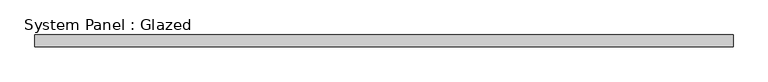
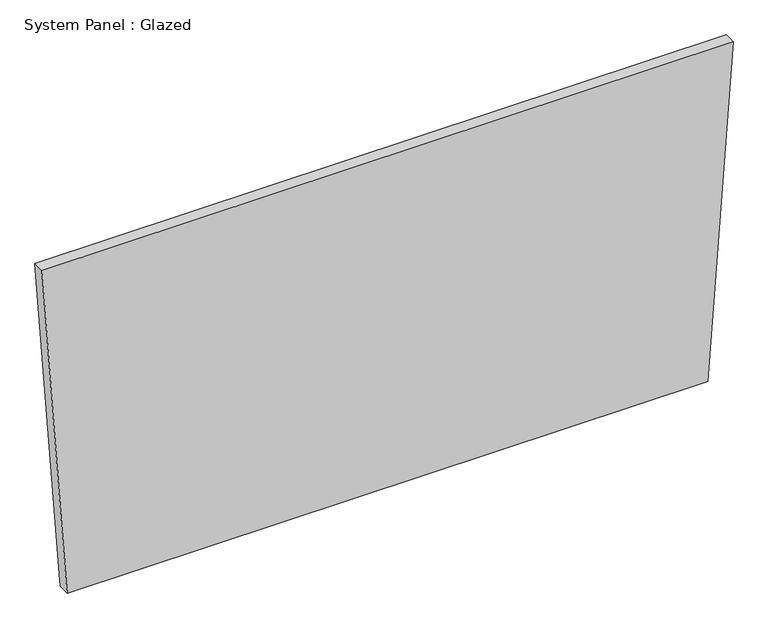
"""IFC4 building model written with IfcOpenShell, lengths in millimetres: plate geometry, System Panel : Glazed."""

from ifc_helpers import new_model, si_unit, frame, origin, place, context, project, spatial, polyline, outline, extrude, source, transform, mapped, element, save


def system_panel_glazed_5926891d(model_context):
    return source(origin(), model_context, "Body", "SweptSolid", [
        extrude(outline(polyline([(0.0, -681.7652936), (0.0003374, 681.7652916), (745.6250493, 735.3984369), (745.6246853, -735.3984369), (0.0, -681.7652936)])), frame((0.0, 19.05, 0.0), z_axis=(0.0, 1.0, 0.0), x_axis=(0.0, 0.0, 1.0)), (0.0, 0.0, 1.0), 25.4),
    ])


if __name__ == "__main__":
    model = new_model("IFC4")
    model_context = context("Model", 3, world=origin())
    ifc_project = project(units=[si_unit("LENGTHUNIT", "METRE", prefix="MILLI")], contexts=[model_context])
    site = spatial("IfcSite", under=ifc_project)
    building = spatial("IfcBuilding", under=site)
    placement = place(None, origin())
    system_panel_glazed_shape = system_panel_glazed_5926891d(model_context)
    element("IfcPlate", 1, ObjectType="System Panel : Glazed", at=placement, inside=building, context=model_context, shape_type="MappedRepresentation", body=[
        mapped(system_panel_glazed_shape, transform((0.0, 0.0, 0.0), x_axis=(1.0, 0.0, 0.0), y_axis=(0.0, 1.0, 0.0), z_axis=(0.0, 0.0, 1.0))),
    ])
    save(model, "model.ifc")
